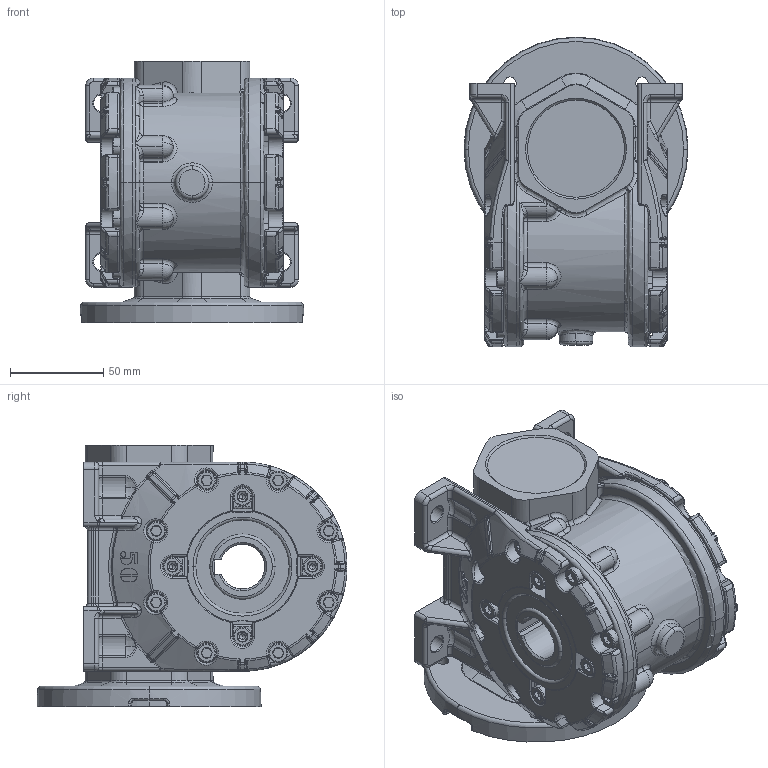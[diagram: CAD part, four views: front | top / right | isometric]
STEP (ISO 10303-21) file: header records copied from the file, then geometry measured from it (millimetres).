
FILE_DESCRIPTION (( 'STEP AP214' ), '1' );
FILE_NAME ('mrt50a-b-63-100.step', '2011-10-12T05:52:36', ( '' ), ( '' ), 'SwSTEP 2.0', 'SolidWorks 2010', '' );
FILE_SCHEMA (( 'AUTOMOTIVE_DESIGN' ));
Length unit declared in the file: millimetre
Products named in the file (6): mrt50a-b-63-100; MRT50A_MRT50A-AP63; pøíruba 100 d52 MRT50a_priruba 85-MRT50; Sroub DIN 6912_M5x16; Sroub DIN 6912_M6x16; Adaptér patky 50
Assembly tree (18 placements, depth 2):
  mrt50a-b-63-100
    Sroub DIN 6912_M5x16  x6
    Sroub DIN 6912_M6x16  x8
    pøíruba 100 d52 MRT50a_priruba 85-MRT50
    Adaptér patky 50  x2
    MRT50A_MRT50A-AP63
Bounding box: 119.68 x 166 x 140 mm (x, y, z)
Volume: 1177422 mm3; surface area: 195166.4 mm2
Topology: 18 solids, 20 shells, 3480 faces, 8226 edges, 4642 vertices
Faces by surface type: cylinder 856, bspline 822, torus 717, plane 558, cone 453, sphere 74
Entity records: 133830 total; most frequent: CARTESIAN_POINT 80849, ORIENTED_EDGE 10418, DIRECTION 10053, EDGE_CURVE 5209, AXIS2_PLACEMENT_3D 4456, VERTEX_POINT 3025, CIRCLE 2733, EDGE_LOOP 2344
